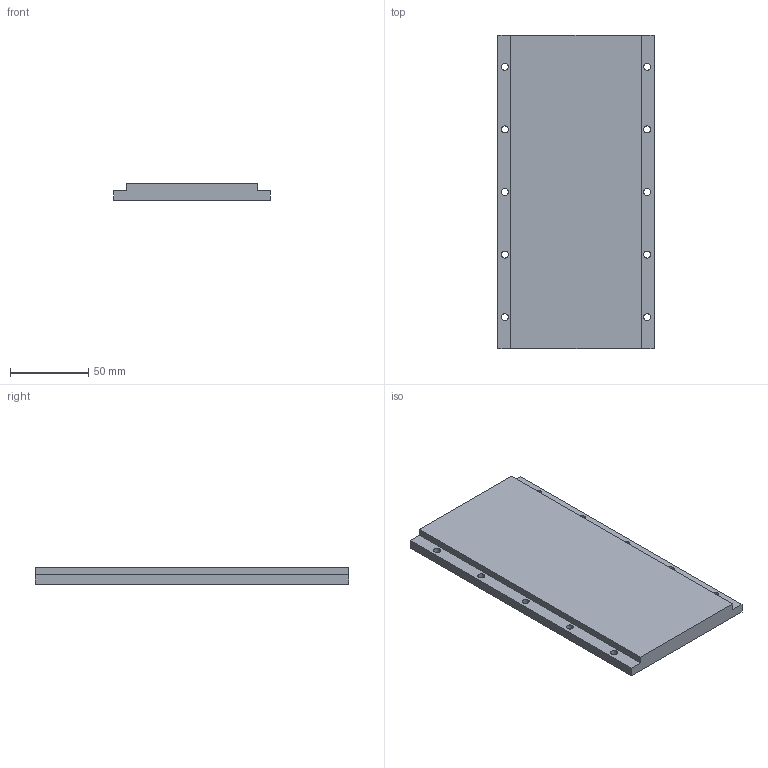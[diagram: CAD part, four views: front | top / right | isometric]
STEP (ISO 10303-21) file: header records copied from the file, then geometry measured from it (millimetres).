
FILE_DESCRIPTION (( 'STEP AP214' ), '1' );
FILE_NAME ('TL-100-200.STEP', '2021-04-27T09:55:02', ( '' ), ( '' ), 'SwSTEP 2.0', 'SolidWorks 2016', '' );
FILE_SCHEMA (( 'AUTOMOTIVE_DESIGN' ));
Length unit declared in the file: millimetre
Products named in the file (1): TL-100-200
Bounding box: 100 x 200 x 10.5 mm (x, y, z)
Volume: 194105.7 mm3; surface area: 46680.7 mm2
Topology: 1 solids, 1 shells, 30 faces, 84 edges, 56 vertices
Faces by surface type: cylinder 20, plane 10
Entity records: 1062 total; most frequent: DIRECTION 186, CARTESIAN_POINT 171, ORIENTED_EDGE 168, EDGE_CURVE 84, AXIS2_PLACEMENT_3D 71, VERTEX_POINT 56, EDGE_LOOP 50, LINE 44
